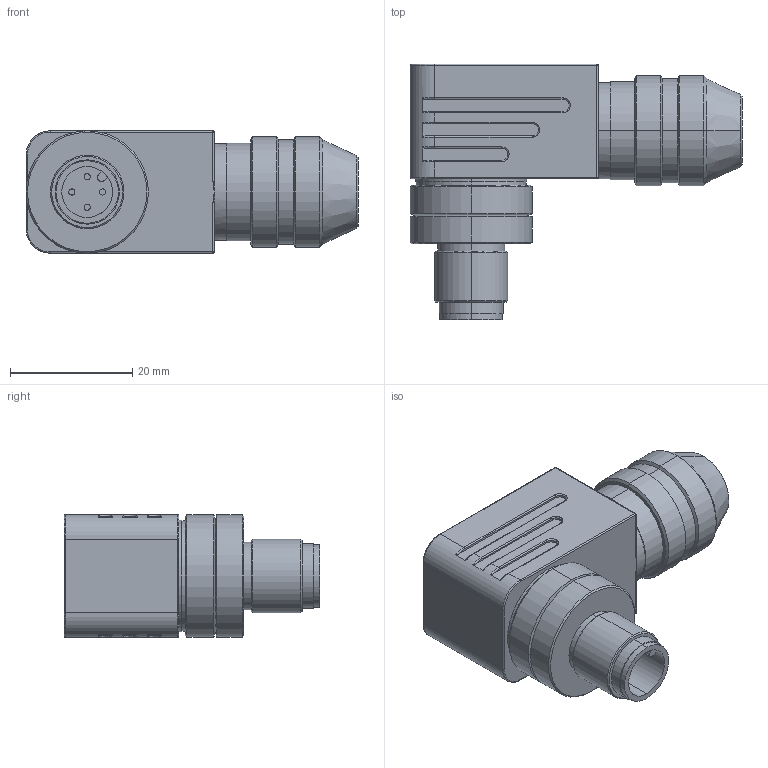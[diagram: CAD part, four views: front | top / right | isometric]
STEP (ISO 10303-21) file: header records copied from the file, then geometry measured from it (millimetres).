
FILE_DESCRIPTION (( 'STEP AP203' ), '1' );
FILE_NAME ('CMBS_82.step', '2012-02-02T21:05:54', ( 'Turck User' ), ( '' ), 'SwSTEP 2.0', 'SolidWorks 2011', '' );
FILE_SCHEMA (( 'CONFIG_CONTROL_DESIGN' ));
Length unit declared in the file: millimetre
Products named in the file (1): CMBS_82
Bounding box: 54.25 x 41.8 x 20 mm (x, y, z)
Volume: 20218.5 mm3; surface area: 6349.6 mm2
Topology: 1 solids, 2 shells, 164 faces, 378 edges, 228 vertices
Faces by surface type: cylinder 63, plane 44, bspline 33, cone 24
Entity records: 5529 total; most frequent: CARTESIAN_POINT 1864, DIRECTION 763, ORIENTED_EDGE 748, EDGE_CURVE 374, AXIS2_PLACEMENT_3D 307, VERTEX_POINT 228, EDGE_LOOP 178, CIRCLE 175
